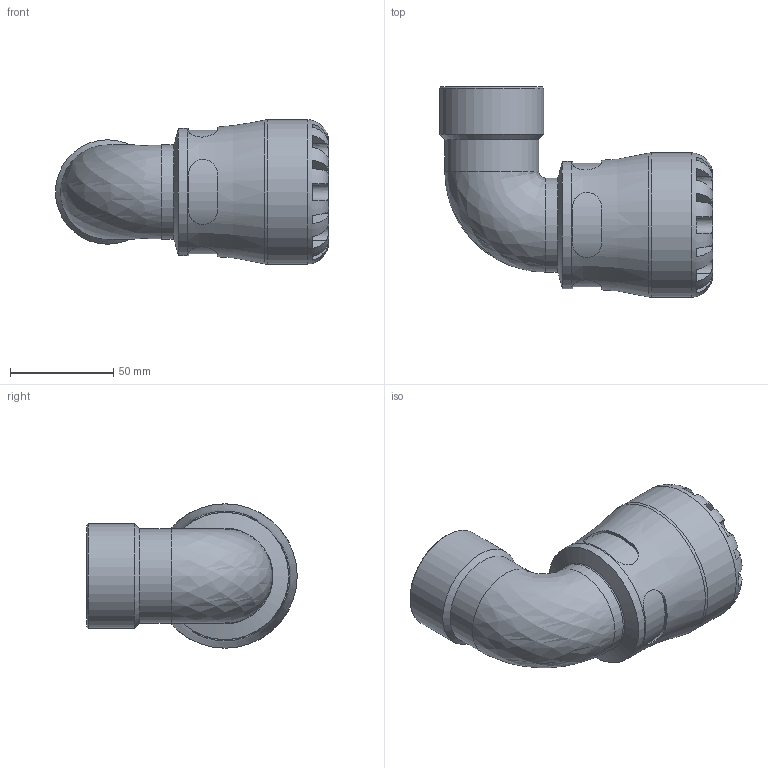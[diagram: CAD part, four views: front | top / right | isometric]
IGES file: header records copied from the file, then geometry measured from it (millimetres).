
Global section: file name: 107600040013_197600040013.ipt; native system: Autodesk Inventor 2015; preprocessor: unknown; author: KIM; date: 20170518.120358; units: millimetre
Bounding box: 132.32 x 102 x 70 mm (x, y, z)
Volume: 217698.1 mm3; surface area: 54102.7 mm2
Topology: 1 solids, 1 shells, 108 faces, 277 edges, 176 vertices
Faces by surface type: plane 60, revolution 28, cylinder 17, cone 3
Full cylindrical faces by diameter (mm): 45.574 x2, 50.638 x1, 61.6 x1, 70 x1
